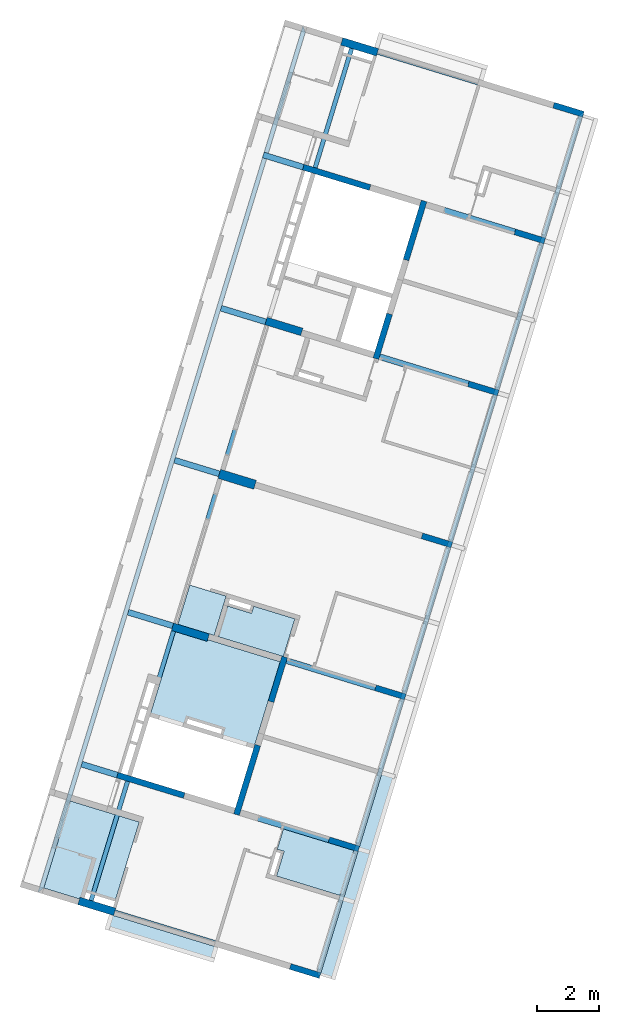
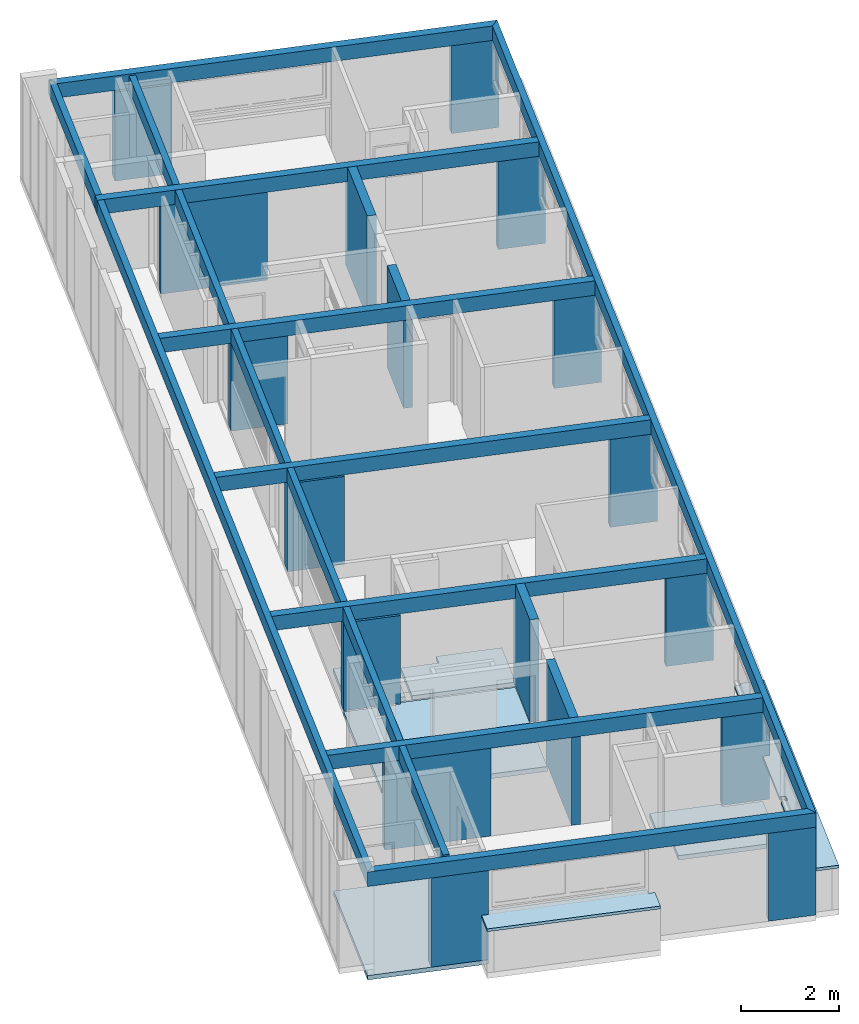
# One storey, part 5 of 18: 18 columns, 10 beams, 7 slabs.
"""IFC2X3 building model written with IfcOpenShell, lengths in millimetres."""

from ifc_helpers import new_model, entity, si_unit, converted_unit, derived_unit, money_unit, direction, frame, origin_with_axes, place, context, subcontext, project, spatial, faceted_brep, material, type_object, element, save


model = new_model("IFC2X3")

# Units and contexts
model_context = context("Model", 3, precision=0.01, world=origin_with_axes(), true_north=direction((0.0, 1.0)))
body_context = subcontext(model_context, "Body", "Model", "MODEL_VIEW")
ifc_project = project(units=[si_unit("LENGTHUNIT", "METRE", prefix="MILLI"), si_unit("AREAUNIT", "SQUARE_METRE"), si_unit("VOLUMEUNIT", "CUBIC_METRE"), converted_unit("PLANEANGLEUNIT", "DEGREE", entity("IfcPlaneAngleMeasure", 0.0174532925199), si_unit("PLANEANGLEUNIT", "RADIAN"), dimensions=[0, 0, 0, 0, 0, 0, 0]), money_unit("USD"), converted_unit("TIMEUNIT", "Year", entity("IfcTimeMeasure", 31556926.0), si_unit("TIMEUNIT", "SECOND"), dimensions=[0, 0, 1, 0, 0, 0, 0]), si_unit("MASSUNIT", "GRAM", prefix="KILO"), si_unit("THERMODYNAMICTEMPERATUREUNIT", "DEGREE_CELSIUS"), si_unit("LUMINOUSINTENSITYUNIT", "LUMEN"), si_unit("ENERGYUNIT", "JOULE", prefix="MEGA"), derived_unit("THERMALCONDUCTANCEUNIT", [(si_unit("POWERUNIT", "WATT"), 1), (si_unit("LENGTHUNIT", "METRE"), -1), (si_unit("THERMODYNAMICTEMPERATUREUNIT", "KELVIN"), -1)]), derived_unit("SPECIFICHEATCAPACITYUNIT", [(si_unit("ENERGYUNIT", "JOULE"), 1), (si_unit("MASSUNIT", "GRAM", prefix="KILO"), -1), (si_unit("THERMODYNAMICTEMPERATUREUNIT", "KELVIN"), -1)]), derived_unit("MASSDENSITYUNIT", [(si_unit("MASSUNIT", "GRAM", prefix="KILO"), 1), (si_unit("VOLUMEUNIT", "CUBIC_METRE"), -1)])], contexts=[model_context])

# Site, building, storey
site_placement = place(None, frame((0.0, 0.0, 0.0), z_axis=(0.0, 0.0, 1.0), x_axis=(0.956304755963, -0.292371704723, 0.0)))
site = spatial("IfcSite", under=ifc_project, at=site_placement, Name="Site", CompositionType="ELEMENT")
building_placement = place(site_placement, origin_with_axes())
building = spatial("IfcBuilding", under=site, at=building_placement, Name="Building", CompositionType="ELEMENT")
storey_placement = place(building_placement, origin_with_axes())
storey = spatial("IfcBuildingStorey", under=building, at=storey_placement, Name="Pavimento tipo", CompositionType="ELEMENT", Elevation=0.0)

# Columns
ifc_material_1 = material(Name="Concreto - Estrutural")
column_type_1 = type_object("IfcColumnType", Name="Concreto - Estrutural 190 x 1980", PredefinedType="NOTDEFINED")
column_1_placement = place(storey_placement, frame((5366.7113974, 23849.9900343, 0.0), z_axis=(0.0, 0.0, 1.0), x_axis=(1.0, 0.0, 0.0)))
element("IfcColumn", 1, at=column_1_placement, inside=storey, type_object=column_type_1, material=ifc_material_1, Name="Pilar 08", context=body_context, shape_type="Brep", body=[
    faceted_brep([(-95.0, 990.0, 0.0), (-95.0000000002, 989.999135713, 2200.0), (94.9999999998, 989.999094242, 2200.0), (95.0, 990.0, 0.0), (-95.0, 799.999135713, 2560.0), (-95.0, 799.999135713, 2200.0), (-95.0, -990.0, 0.0), (-95.0, -990.0, 2560.0), (95.0, 799.999094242, 2200.0), (95.0, 799.999094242, 2560.0), (95.0, -990.0, 2560.0), (95.0, -990.0, 0.0)], [[[0, 1, 2, 3]], [[4, 5, 1, 0, 6, 7]], [[5, 8, 2, 1]], [[2, 8, 9, 10, 11, 3]], [[3, 11, 6, 0]], [[5, 4, 9, 8]], [[10, 7, 6, 11]], [[10, 9, 4, 7]]]),
])
column_type_2 = type_object("IfcColumnType", Name="Concreto - Estrutural 1200 x 250", PredefinedType="NOTDEFINED")
column_2_placement = place(storey_placement, frame((2241.71098285, 19674.9900343, 0.0), z_axis=(0.0, 0.0, 1.0), x_axis=(1.0, 0.0, 0.0)))
element("IfcColumn", 2, at=column_2_placement, inside=storey, type_object=column_type_2, material=ifc_material_1, Name="Pilar 14", context=body_context, shape_type="Brep", body=[
    faceted_brep([(-600.0, -125.0, 2200.0), (-600.0, -125.0, 0.0), (600.0, -125.0, 0.0), (600.0, -125.0, 2200.0), (-600.0, 125.0, 2200.0), (-600.0, 125.0, 0.0), (600.0, 125.0, 0.0), (600.0, 125.0, 2200.0)], [[[0, 1, 2, 3]], [[4, 5, 1, 0]], [[2, 1, 5, 6]], [[3, 2, 6, 7]], [[4, 0, 3, 7]], [[7, 6, 5, 4]]]),
])
column_3_placement = place(storey_placement, frame((1941.71171539, 28964.9900343, -30.0), z_axis=(0.0, 0.0, 1.0), x_axis=(1.0, 0.0, 0.0)))
element("IfcColumn", 3, at=column_3_placement, inside=storey, type_object=column_type_2, material=ifc_material_1, Name="Pilar 12", context=body_context, shape_type="Brep", body=[
    faceted_brep([(-600.0, -125.0, 2230.0), (-600.0, -125.0, 0.0), (600.0, -125.0, 0.0), (600.0, -125.0, 2230.0), (-600.0, 125.0, 2230.0), (-600.0, 125.0, 0.0), (600.0, 125.0, 0.0), (600.0, 125.0, 2230.0)], [[[0, 1, 2, 3]], [[4, 5, 1, 0]], [[2, 1, 5, 6]], [[3, 2, 6, 7]], [[4, 0, 3, 7]], [[7, 6, 5, 4]]]),
])
column_4_placement = place(storey_placement, frame((2241.71098285, 9414.99003431, 0.0), z_axis=(0.0, 0.0, 1.0), x_axis=(-1.0, 0.0, 0.0)))
element("IfcColumn", 4, at=column_4_placement, inside=storey, type_object=column_type_2, material=ifc_material_1, Name="Pilar 16", context=body_context, shape_type="Brep", body=[
    faceted_brep([(600.0, 125.0, 2200.0), (600.0, 125.0, 0.0), (-600.0, 125.0, 0.0), (-600.0, 125.0, 2200.0), (600.0, -125.0, 2200.0), (600.0, -125.0, 0.0), (-600.0, -125.0, 0.0), (-600.0, -125.0, 2200.0)], [[[0, 1, 2, 3]], [[4, 5, 1, 0]], [[2, 1, 5, 6]], [[3, 2, 6, 7]], [[4, 0, 3, 7]], [[7, 6, 5, 4]]]),
])
column_5_placement = place(storey_placement, frame((1941.71171539, 124.990034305, -30.0), z_axis=(0.0, 0.0, 1.0), x_axis=(-1.0, 0.0, 0.0)))
element("IfcColumn", 5, at=column_5_placement, inside=storey, type_object=column_type_2, material=ifc_material_1, Name="Pilar 18", context=body_context, shape_type="Brep", body=[
    faceted_brep([(600.0, 125.0, 2230.0), (600.0, 125.0, 0.0), (-600.0, 125.0, 0.0), (-600.0, 125.0, 2230.0), (600.0, -125.0, 2230.0), (600.0, -125.0, 0.0), (-600.0, -125.0, 0.0), (-600.0, -125.0, 2230.0)], [[[0, 1, 2, 3]], [[4, 5, 1, 0]], [[2, 1, 5, 6]], [[3, 2, 6, 7]], [[4, 0, 3, 7]], [[7, 6, 5, 4]]]),
])
column_type_3 = type_object("IfcColumnType", Name="Concreto - Estrutural 190 x 1500", PredefinedType="NOTDEFINED")
column_6_placement = place(storey_placement, frame((5366.71344835, 20299.9900343, 0.0), z_axis=(0.0, 0.0, 1.0), x_axis=(1.0, 0.0, 0.0)))
element("IfcColumn", 6, at=column_6_placement, inside=storey, type_object=column_type_3, material=ifc_material_1, Name="Pilar 09", context=body_context, shape_type="Brep", body=[
    faceted_brep([(-95.0, 750.0, 2560.0), (-95.0, -560.0, 2560.0), (95.0, -560.0, 2560.0), (95.0, 750.0, 2560.0), (-95.0, -750.0, 2200.0), (-95.0, -560.0, 2200.0), (-95.0, 750.0, 0.0), (-95.0, -750.0, 0.0), (95.0, -560.0, 2200.0), (95.0, -750.0, 2200.0), (95.0, -750.0, 0.0), (95.0, 750.0, 0.0)], [[[0, 1, 2, 3]], [[4, 5, 1, 0, 6, 7]], [[5, 8, 2, 1]], [[2, 8, 9, 10, 11, 3]], [[0, 3, 11, 6]], [[4, 9, 8, 5]], [[11, 10, 7, 6]], [[10, 9, 4, 7]]]),
])
column_7_placement = place(storey_placement, frame((5366.71097365, 8789.99003431, 0.0), z_axis=(0.0, 0.0, 1.0), x_axis=(-1.0, 0.0, 0.0)))
element("IfcColumn", 7, at=column_7_placement, inside=storey, type_object=column_type_3, material=ifc_material_1, Name="Pilar 10", context=body_context, shape_type="Brep", body=[
    faceted_brep([(95.0, -750.0, 0.0), (95.0, -750.000043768, 2200.0), (-95.0, -750.000041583, 2200.0), (-95.0, -750.0, 0.0), (95.0, -560.000043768, 2560.0), (95.0, -560.000043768, 2200.0), (95.0, 750.0, 0.0), (95.0, 750.0, 2560.0), (-95.0, -560.000041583, 2200.0), (-95.0, -560.000041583, 2560.0), (-95.0, 750.0, 2560.0), (-95.0, 750.0, 0.0)], [[[0, 1, 2, 3]], [[4, 5, 1, 0, 6, 7]], [[5, 8, 2, 1]], [[2, 8, 9, 10, 11, 3]], [[3, 11, 6, 0]], [[5, 4, 9, 8]], [[10, 7, 6, 11]], [[10, 9, 4, 7]]]),
])
column_type_4 = type_object("IfcColumnType", Name="Concreto - Estrutural 2240 x 190", PredefinedType="NOTDEFINED")
column_8_placement = place(storey_placement, frame((2461.71344835, 24744.9900343, 0.0), z_axis=(0.0, 0.0, 1.0), x_axis=(1.0, 0.0, 0.0)))
element("IfcColumn", 8, at=column_8_placement, inside=storey, type_object=column_type_4, material=ifc_material_1, Name="Pilar 13", context=body_context, shape_type="Brep", body=[
    faceted_brep([(-1120.0, -95.0, 2200.0), (-1120.0, -95.0, 0.0), (1120.0, -95.0, 0.0), (1120.0, -95.0, 2200.0), (-1120.0, 95.0, 2200.0), (-1120.0, 95.0, 0.0), (1120.0, 95.0, 0.0), (1120.0, 95.0, 2200.0)], [[[0, 1, 2, 3]], [[4, 5, 1, 0]], [[2, 1, 5, 6]], [[3, 2, 6, 7]], [[4, 0, 3, 7]], [[7, 6, 5, 4]]]),
])

# Space
space_1_placement = place(storey_placement, frame((1481.71507604, 4250.00139822, 0.0), z_axis=(0.0, 0.0, 1.0), x_axis=(3.39571890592e-07, -1.0, 0.0)))
space_1 = spatial("IfcSpace", under=storey, at=space_1_placement, Name="01", CompositionType="ELEMENT", InteriorOrExteriorSpace="INTERNAL")

# Columns
column_9_placement = place(space_1_placement, frame((-94.9883033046, 979.99593647, 0.0), z_axis=(0.0, 0.0, 1.0), x_axis=(-3.39571890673e-07, -1.0, 0.0)))
element("IfcColumn", 9, at=column_9_placement, inside=space_1, type_object=column_type_4, material=ifc_material_1, Name="Pilar 17", context=body_context, shape_type="Brep", body=[
    faceted_brep([(1120.0, 95.0, 2200.0), (1120.0, 95.0, 0.0), (-1120.0, 95.0, 0.0), (-1120.0, 95.0, 2200.0), (1120.0, -95.0, 2200.0), (1120.0, -95.0, 0.0), (-1120.0, -95.0, 0.0), (-1120.0, -95.0, 2200.0)], [[[0, 1, 2, 3]], [[4, 5, 1, 0]], [[2, 1, 5, 6]], [[3, 2, 6, 7]], [[4, 0, 3, 7]], [[7, 6, 5, 4]]]),
])
column_type_5 = type_object("IfcColumnType", Name="Concreto - Estrutural 1000 x 190", PredefinedType="NOTDEFINED")
for number, where, z_axis, x_axis, name in (
    (10, (-94.9861028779, 7459.99841133, 0.0), (0.0, 0.0, 1.0), (-3.39571890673e-07, -1.0, 0.0), "Pilar 06"),
    (11, (4155.01389712, 7459.99696815, 0.0), (0.0, 0.0, 1.0), (-3.39571890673e-07, -1.0, 0.0), "Pilar 07"),
):
    element("IfcColumn", number, at=place(space_1_placement, frame(where, z_axis=z_axis, x_axis=x_axis)), inside=space_1, type_object=column_type_5, material=ifc_material_1, Name=name, context=body_context, shape_type="Brep", body=[
        faceted_brep([(500.0, 95.0, 2200.0), (500.0, 95.0, 0.0), (-500.0, 95.0, 0.0), (-500.0, 95.0, 2200.0), (500.0, -95.0, 2200.0), (500.0, -95.0, 0.0), (-500.0, -95.0, 0.0), (-500.0, -95.0, 2200.0)], [[[0, 1, 2, 3]], [[4, 5, 1, 0]], [[2, 1, 5, 6]], [[3, 2, 6, 7]], [[4, 0, 3, 7]], [[7, 6, 5, 4]]]),
    ])

# Space
space_2_placement = place(storey_placement, frame((1481.71158317, 24839.9981298, 0.0), z_axis=(0.0, 0.0, 1.0), x_axis=(1.0, -1.55460451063e-08, 0.0)))
space_2 = spatial("IfcSpace", under=storey, at=space_2_placement, Name="04", CompositionType="ELEMENT", InteriorOrExteriorSpace="INTERNAL")

# Columns
for number, where, z_axis, x_axis, name in (
    (12, (7460.00180735, 4154.9920205, 0.0), (0.0, 0.0, 1.0), (1.0, 1.55460451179e-08, 0.0), "Pilar 01"),
    (13, (7459.99933256, -95.0079795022, 0.0), (0.0, 0.0, 1.0), (1.0, 1.55460451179e-08, 0.0), "Pilar 02"),
):
    element("IfcColumn", number, at=place(space_2_placement, frame(where, z_axis=z_axis, x_axis=x_axis)), inside=space_2, type_object=column_type_5, material=ifc_material_1, Name=name, context=body_context, shape_type="Brep", body=[
        faceted_brep([(-500.0, -95.0, 2200.0), (-500.0, -95.0, 0.0), (500.0, -95.0, 0.0), (500.0, -95.0, 2200.0), (-500.0, 95.0, 2200.0), (-500.0, 95.0, 0.0), (500.0, 95.0, 0.0), (500.0, 95.0, 2200.0)], [[[0, 1, 2, 3]], [[4, 5, 1, 0]], [[2, 1, 5, 6]], [[3, 2, 6, 7]], [[4, 0, 3, 7]], [[7, 6, 5, 4]]]),
    ])

# Space
space_3_placement = place(storey_placement, frame((2841.71096673, 14639.9999947, 0.0), z_axis=(0.0, 0.0, 1.0), x_axis=(1.0, 1.43937078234e-07, 0.0)))
space_3 = spatial("IfcSpace", under=storey, at=space_3_placement, Name="03", CompositionType="ELEMENT", InteriorOrExteriorSpace="INTERNAL")

# Column
column_10_placement = place(space_3_placement, frame((6100.00073615, 5004.99923509, 0.0), z_axis=(0.0, 0.0, 1.0), x_axis=(1.0, -1.43937078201e-07, 0.0)))
element("IfcColumn", 14, at=column_10_placement, inside=space_3, type_object=column_type_5, material=ifc_material_1, Name="Pilar 03", context=body_context, shape_type="Brep", body=[
    faceted_brep([(-500.0, -95.0, 2200.0), (-500.0, -95.0, 0.0), (500.0, -95.0, 0.0), (500.0, -95.0, 2200.0), (-500.0, 95.0, 2200.0), (-500.0, 95.0, 0.0), (500.0, 95.0, 0.0), (500.0, 95.0, 2200.0)], [[[0, 1, 2, 3]], [[4, 5, 1, 0]], [[2, 1, 5, 6]], [[3, 2, 6, 7]], [[4, 0, 3, 7]], [[7, 6, 5, 4]]]),
])

# Space
space_4_placement = place(storey_placement, frame((2841.71099896, 14449.9999947, 0.0), z_axis=(0.0, 0.0, 1.0), x_axis=(6.32291681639e-07, -1.0, 0.0)))
space_4 = spatial("IfcSpace", under=storey, at=space_4_placement, Name="02", CompositionType="ELEMENT", InteriorOrExteriorSpace="INTERNAL")

# Columns
column_11_placement = place(space_4_placement, frame((5005.01381738, 6099.99928475, 0.0), z_axis=(0.0, 0.0, 1.0), x_axis=(-6.32291681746e-07, -1.0, 0.0)))
element("IfcColumn", 15, at=column_11_placement, inside=space_4, type_object=column_type_5, material=ifc_material_1, Name="Pilar 05", context=body_context, shape_type="Brep", body=[
    faceted_brep([(500.0, 95.0, 2200.0), (500.0, 95.0, 0.0), (-500.0, 95.0, 0.0), (-500.0, 95.0, 2200.0), (500.0, -95.0, 2200.0), (500.0, -95.0, 0.0), (-500.0, -95.0, 0.0), (-500.0, -95.0, 2200.0)], [[[0, 1, 2, 3]], [[4, 5, 1, 0]], [[2, 1, 5, 6]], [[3, 2, 6, 7]], [[4, 0, 3, 7]], [[7, 6, 5, 4]]]),
])
column_12_placement = place(space_4_placement, frame((-94.9861826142, 6100.00250944, 0.0), z_axis=(0.0, 0.0, 1.0), x_axis=(6.32291681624e-07, 1.0, 0.0)))
element("IfcColumn", 16, at=column_12_placement, inside=space_4, type_object=column_type_5, material=ifc_material_1, Name="Pilar 04", context=body_context, shape_type="Brep", body=[
    faceted_brep([(-500.0, -95.0, 2200.0), (-500.0, -95.0, 0.0), (500.0, -95.0, 0.0), (500.0, -95.0, 2200.0), (-500.0, 95.0, 2200.0), (-500.0, 95.0, 0.0), (500.0, 95.0, 0.0), (500.0, 95.0, 2200.0)], [[[0, 1, 2, 3]], [[4, 5, 1, 0]], [[2, 1, 5, 6]], [[3, 2, 6, 7]], [[4, 0, 3, 7]], [[7, 6, 5, 4]]]),
])
column_type_6 = type_object("IfcColumnType", Name="Concreto - Estrutural 1200 x 300", PredefinedType="NOTDEFINED")
column_13_placement = place(storey_placement, frame((2241.71098285, 14544.9999947, 0.0), z_axis=(0.0, 0.0, 1.0), x_axis=(1.0, 0.0, 0.0)))
element("IfcColumn", 17, at=column_13_placement, inside=storey, type_object=column_type_6, material=ifc_material_1, Name="Pilar 15", context=body_context, shape_type="Brep", body=[
    faceted_brep([(-600.0, -150.0, 2200.0), (-600.0, -150.0, 0.0), (600.0, -150.0, 0.0), (600.0, -150.0, 2200.0), (-600.0, 150.0, 2200.0), (-600.0, 150.0, 0.0), (600.0, 150.0, 0.0), (600.0, 150.0, 2200.0)], [[[0, 1, 2, 3]], [[4, 5, 1, 0]], [[2, 1, 5, 6]], [[3, 2, 6, 7]], [[4, 0, 3, 7]], [[7, 6, 5, 4]]]),
])
column_type_7 = type_object("IfcColumnType", Name="Concreto - Estrutural 190 x 2330", PredefinedType="NOTDEFINED")
column_14_placement = place(storey_placement, frame((5366.71344835, 5414.99003431, 0.0), z_axis=(0.0, 0.0, 1.0), x_axis=(-1.0, 0.0, 0.0)))
element("IfcColumn", 18, at=column_14_placement, inside=storey, type_object=column_type_7, material=ifc_material_1, Name="Pilar 11", context=body_context, shape_type="Brep", body=[
    faceted_brep([(95.0, -1165.0, 2560.0), (95.0, 974.990025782, 2560.0), (-95.0, 974.990027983, 2560.0), (-95.0, -1165.0, 2560.0), (94.9999999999, 1164.99002578, 2200.0), (95.0, 974.990025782, 2200.0), (95.0, -1165.0, 0.0), (95.0, 1165.0, 0.0), (-95.0, 974.990027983, 2200.0), (-95.0000000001, 1164.99002798, 2200.0), (-95.0, 1165.0, 0.0), (-95.0, -1165.0, 0.0)], [[[0, 1, 2, 3]], [[4, 5, 1, 0, 6, 7]], [[5, 8, 2, 1]], [[2, 8, 9, 10, 11, 3]], [[0, 3, 11, 6]], [[4, 9, 8, 5]], [[11, 10, 7, 6]], [[10, 9, 4, 7]]]),
])

# Beams
ifc_material_2 = material(Name="Concreto Armado - Estrutural")
beam_type_1 = type_object("IfcBeamType", Name="Concreto Armado - Estrutural 190 x 360", PredefinedType="NOTDEFINED")
beam_1_placement = place(space_1_placement, frame((0.00414098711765, 7959.99583821, 2560.0), z_axis=(0.0, 0.0, 1.0), x_axis=(-1.0, 3.5115407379e-07, 0.0)))
element("IfcBeam", 19, at=beam_1_placement, inside=space_1, type_object=beam_type_1, material=ifc_material_2, Name="V09", context=body_context, shape_type="Brep", body=[
    faceted_brep([(190.0, 139.997191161, -360.0), (190.0, 9299.99746811, -360.0), (190.0, 9299.99746811, 0.0), (190.0, 139.997191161, 0.0), (0.0, 139.997186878, -360.0), (0.0, 9299.99746591, -360.0), (0.0, 9299.99746591, 0.0), (0.0, 139.997186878, 0.0)], [[[0, 1, 2, 3]], [[4, 5, 1, 0]], [[5, 6, 2, 1]], [[3, 2, 6, 7]], [[7, 4, 0, 3]], [[7, 6, 5, 4]]]),
])
beam_2_placement = place(space_1_placement, frame((4250.01086135, -1480.00307088, 2560.0), z_axis=(0.0, 0.0, 1.0), x_axis=(1.0, -3.37860045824e-07, 0.0)))
element("IfcBeam", 20, at=beam_2_placement, inside=space_1, type_object=beam_type_1, material=ifc_material_2, Name="V10", context=body_context, shape_type="Brep", body=[
    faceted_brep([(-190.0, 140.000000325, -360.0), (-190.0, 9300.00032385, -360.0), (0.0, 9440.00032561, -360.0), (0.0, 0.0, -360.0), (-190.0, 140.000000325, 0.0), (-190.0, 9300.00032385, 0.0), (0.0, 9440.00032561, 0.0), (0.0, 0.0, 0.0)], [[[0, 1, 2, 3]], [[4, 5, 1, 0]], [[2, 1, 5, 6]], [[3, 2, 6, 7]], [[4, 0, 3, 7]], [[7, 6, 5, 4]]]),
])
beam_3_placement = place(space_2_placement, frame((-1479.9982009, 4249.99311928, 2560.0), z_axis=(0.0, 0.0, 1.0), x_axis=(1.55460451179e-08, -1.0, 0.0)))
element("IfcBeam", 21, at=beam_3_placement, inside=space_2, type_object=beam_type_1, material=ifc_material_2, Name="V04", context=body_context, shape_type="Brep", body=[
    faceted_brep([(0.0, 0.0, -360.0), (0.0, 9440.00000677, -360.0), (190.0, 9300.00000885, -360.0), (190.0, 140.0, -360.0), (0.0, 0.0, 0.0), (0.0, 9440.00000677, 0.0), (190.0, 9300.00000885, 0.0), (190.0, 140.0, 0.0)], [[[0, 1, 2, 3]], [[4, 5, 1, 0]], [[2, 1, 5, 6]], [[3, 2, 6, 7]], [[4, 0, 3, 7]], [[7, 6, 5, 4]]]),
])
beam_4_placement = place(space_2_placement, frame((-1482.10424752, -0.00783206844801, 2560.0), z_axis=(0.0, 0.0, 1.0), x_axis=(-2.02722688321e-07, -1.0, 0.0)))
element("IfcBeam", 22, at=beam_4_placement, inside=space_2, type_object=beam_type_1, material=ifc_material_2, Name="V05", context=body_context, shape_type="Brep", body=[
    faceted_brep([(190.0, 0.0, 0.0), (190.0, 9302.10620961, 0.0), (0.0, 9302.10616605, 0.0), (0.0, 0.0, 0.0), (190.0, 0.0, -360.0), (190.0, 9302.10620961, -360.0), (0.0, 9302.10616605, -360.0), (0.0, 0.0, -360.0)], [[[0, 1, 2, 3]], [[4, 5, 1, 0]], [[5, 6, 2, 1]], [[3, 2, 6, 7]], [[4, 0, 3, 7]], [[7, 6, 5, 4]]]),
])
beam_5_placement = place(space_3_placement, frame((6600.00072247, 4909.98908961, 2560.0), z_axis=(0.0, 0.0, 1.0), x_axis=(1.43937078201e-07, 1.0, 0.0)))
element("IfcBeam", 23, at=beam_5_placement, inside=space_3, type_object=beam_type_1, material=ifc_material_2, Name="V06", context=body_context, shape_type="Brep", body=[
    faceted_brep([(190.0, 139.99742488, -360.0), (190.0, 9299.99753413, -360.0), (190.0, 9299.99753413, 0.0), (190.0, 139.99742488, 0.0), (0.0, 139.997422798, -360.0), (0.0, 9299.99753413, -360.0), (0.0, 9299.99753413, 0.0), (0.0, 139.997422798, 0.0)], [[[0, 1, 2, 3]], [[4, 5, 1, 0]], [[5, 6, 2, 1]], [[3, 2, 6, 7]], [[7, 4, 0, 3]], [[7, 6, 5, 4]]]),
])

# Space
space_5_placement = place(storey_placement, frame((-458.28928681, 3300.00204517, 0.0), z_axis=(0.0, 0.0, 1.0), x_axis=(1.0, 0.0, 0.0)))
space_5 = spatial("IfcSpace", under=storey, at=space_5_placement, Name="05", CompositionType="ELEMENT", InteriorOrExteriorSpace="INTERNAL")

# Beams
beam_6_placement = place(space_5_placement, frame((9900.00273516, 6049.98798495, 2560.0), z_axis=(0.0, 0.0, 1.0), x_axis=(1.14994548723e-08, 1.0, 0.0)))
element("IfcBeam", 24, at=beam_6_placement, inside=space_5, type_object=beam_type_1, material=ifc_material_2, Name="V08", context=body_context, shape_type="Brep", body=[
    faceted_brep([(190.0, 139.999781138, -360.0), (190.0, 9300.00000218, -360.0), (190.0, 9300.00000218, 0.0), (190.0, 139.999781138, 0.0), (0.0, 139.999776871, -360.0), (0.0, 9300.0, -360.0), (0.0, 9300.0, 0.0), (0.0, 139.999776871, 0.0)], [[[0, 1, 2, 3]], [[4, 5, 1, 0]], [[5, 6, 2, 1]], [[3, 2, 6, 7]], [[7, 4, 0, 3]], [[7, 6, 5, 4]]]),
])
beam_7_placement = place(space_5_placement, frame((9900.00272667, 11149.9980945, 2560.0), z_axis=(0.0, 0.0, 1.0), x_axis=(-1.40426879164e-09, 1.0, 0.0)))
element("IfcBeam", 25, at=beam_7_placement, inside=space_5, type_object=beam_type_1, material=ifc_material_2, Name="V07", context=body_context, shape_type="Brep", body=[
    faceted_brep([(190.0, 139.999826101, -360.0), (190.0, 9299.99999125, -360.0), (190.0, 9299.99999125, 0.0), (190.0, 139.999826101, 0.0), (0.0, 139.999824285, -360.0), (0.0, 9299.99999152, -360.0), (0.0, 9299.99999152, 0.0), (0.0, 139.999824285, 0.0)], [[[0, 1, 2, 3]], [[4, 5, 1, 0]], [[5, 6, 2, 1]], [[3, 2, 6, 7]], [[7, 4, 0, 3]], [[7, 6, 5, 4]]]),
])
beam_type_2 = type_object("IfcBeamType", Name="Concreto Armado - Estrutural 140 x 360", PredefinedType="NOTDEFINED")
beam_8_placement = place(space_1_placement, frame((-24839.9871709, 7960.00681404, 2560.0), z_axis=(0.0, 0.0, 1.0), x_axis=(-3.28611506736e-07, -1.0, 0.0)))
element("IfcBeam", 26, at=beam_8_placement, inside=space_1, type_object=beam_type_2, material=ifc_material_2, Name="V03", context=body_context, shape_type="Brep", body=[
    faceted_brep([(0.0, 0.0, -360.0), (0.0, 29090.0012216, -360.0), (140.0, 28900.0012203, -360.0), (140.0, 189.999998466, -360.0), (0.0, 0.0, 0.0), (0.0, 29090.0012216, 0.0), (140.0, 28900.0012203, 0.0), (140.0, 189.999998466, 0.0)], [[[0, 1, 2, 3]], [[4, 5, 1, 0]], [[2, 1, 5, 6]], [[3, 2, 6, 7]], [[4, 0, 3, 7]], [[7, 6, 5, 4]]]),
])
beam_9_placement = place(space_1_placement, frame((-24839.9903764, -1479.99319273, 2560.0), z_axis=(0.0, 0.0, 1.0), x_axis=(-3.39571890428e-07, -1.0, 0.0)))
element("IfcBeam", 27, at=beam_9_placement, inside=space_1, type_object=beam_type_2, material=ifc_material_2, Name="V01", context=body_context, shape_type="Brep", body=[
    faceted_brep([(-140.0, 28900.0012375, -360.0), (-140.0, 4440.00098234, -360.0), (-140.0, 4440.00098234, 0.0), (-140.0, 28900.0012375, 0.0), (0.0, 29090.0012378, -360.0), (0.0, 4440.00095178, -360.0), (0.0, 4440.00095178, 0.0), (0.0, 29090.0012378, 0.0)], [[[0, 1, 2, 3]], [[4, 5, 1, 0]], [[5, 6, 2, 1]], [[3, 2, 6, 7]], [[7, 4, 0, 3]], [[7, 6, 5, 4]]]),
    faceted_brep([(0.0, 0.0, 0.0), (0.0, 4250.00095178, 0.0), (-140.0, 4250.00098234, 0.0), (-140.0, 190.0, 0.0), (0.0, 0.0, -360.0), (0.0, 4250.00095178, -360.0), (-140.0, 4250.00098234, -360.0), (-140.0, 190.0, -360.0)], [[[0, 1, 2, 3]], [[4, 5, 1, 0]], [[5, 6, 2, 1]], [[3, 2, 6, 7]], [[0, 3, 7, 4]], [[7, 6, 5, 4]]]),
])
beam_10_placement = place(space_1_placement, frame((-24589.9885818, 160.006722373, 2560.0), z_axis=(0.0, 0.0, 1.0), x_axis=(-3.39571890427e-07, -1.0, 0.0)))
element("IfcBeam", 28, at=beam_10_placement, inside=space_1, type_object=beam_type_2, material=ifc_material_2, Name="V02", context=body_context, shape_type="Brep", body=[
    faceted_brep([(-140.0, 14199.9899054, -360.0), (-140.0, 9290.0, -360.0), (-140.0, 9290.0, 0.0), (-140.0, 14199.9899054, 0.0), (0.0, 14199.9899056, -360.0), (0.0, 9290.0, -360.0), (0.0, 9290.0, 0.0), (0.0, 14199.9899056, 0.0)], [[[0, 1, 2, 3]], [[4, 5, 1, 0]], [[5, 6, 2, 1]], [[3, 2, 6, 7]], [[7, 4, 0, 3]], [[7, 6, 5, 4]]]),
    faceted_brep([(0.0, 4190.00007198, 0.0), (0.0, 9100.0, 0.0), (-140.0, 9100.0, 0.0), (-140.0, 4190.00010253, 0.0), (0.0, 4190.00007198, -360.0), (0.0, 9100.0, -360.0), (-140.0, 9100.0, -360.0), (-140.0, 4190.00010253, -360.0)], [[[0, 1, 2, 3]], [[4, 5, 1, 0]], [[5, 6, 2, 1]], [[3, 2, 6, 7]], [[4, 0, 3, 7]], [[7, 6, 5, 4]]]),
    faceted_brep([(-140.0, 19299.9999161, -360.0), (-140.0, 14389.9899054, -360.0), (-140.0, 14389.9899054, 0.0), (-140.0, 19299.9999161, 0.0), (0.0, 19299.9999145, -360.0), (0.0, 14389.9899056, -360.0), (0.0, 14389.9899056, 0.0), (0.0, 19299.9999145, 0.0)], [[[0, 1, 2, 3]], [[4, 5, 1, 0]], [[5, 6, 2, 1]], [[3, 2, 6, 7]], [[7, 4, 0, 3]], [[7, 6, 5, 4]]]),
    faceted_brep([(-140.0, 24399.9899854, -360.0), (-140.0, 19489.9999161, -360.0), (-140.0, 19489.9999161, 0.0), (-140.0, 24399.9899854, 0.0), (0.0, 24399.9899837, -360.0), (0.0, 19489.9999145, -360.0), (0.0, 19489.9999145, 0.0), (0.0, 24399.9899837, 0.0)], [[[0, 1, 2, 3]], [[4, 5, 1, 0]], [[5, 6, 2, 1]], [[3, 2, 6, 7]], [[7, 4, 0, 3]], [[7, 6, 5, 4]]]),
    faceted_brep([(-140.0, 28590.0, -360.0), (-140.0, 24589.9899854, -360.0), (-140.0, 24589.9899854, 0.0), (-140.0, 28590.0, 0.0), (0.0, 28590.0, -360.0), (0.0, 24589.9899837, -360.0), (0.0, 24589.9899837, 0.0), (0.0, 28590.0, 0.0)], [[[0, 1, 2, 3]], [[4, 5, 1, 0]], [[5, 6, 2, 1]], [[3, 2, 6, 7]], [[3, 7, 4, 0]], [[7, 6, 5, 4]]]),
    faceted_brep([(0.0, 0.0, 0.0), (0.0, 4000.00007198, 0.0), (-140.0, 4000.00010253, 0.0), (-140.0, 0.0, 0.0), (0.0, 0.0, -360.0), (0.0, 4000.00007198, -360.0), (-140.0, 4000.00010253, -360.0), (-140.0, 0.0, -360.0)], [[[0, 1, 2, 3]], [[4, 5, 1, 0]], [[5, 6, 2, 1]], [[3, 2, 6, 7]], [[0, 3, 7, 4]], [[7, 6, 5, 4]]]),
])

# Slabs
slab_type_1 = type_object("IfcSlabType", Name="Concreto - Estrutural 110", PredefinedType="FLOOR")
slab_1_placement = place(storey_placement, frame((3140.00214067, 9539.99996852, -30.0), z_axis=(0.0, 0.0, 1.0), x_axis=(1.0, 0.0, 0.0)))
element("IfcSlab", 29, at=slab_1_placement, inside=storey, type_object=slab_type_1, material=ifc_material_1, Name="Laje 06", PredefinedType="FLOOR", context=body_context, shape_type="Brep", body=[
    faceted_brep([(0.0, 0.0, 0.0), (0.0, 0.0, -110.0), (2181.70858093, 1.33635875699e-05, -110.0), (2181.70858093, 1.33635875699e-05, 0.0), (0.0, 1027.17110758, 0.0), (0.0, 1027.17110758, -110.0), (799.999974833, 1027.17110758, -110.0), (799.999888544, 1267.17144554, -110.0), (2181.70762269, 1267.17194231, -110.0), (2181.70762269, 1267.17194231, 0.0), (799.999888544, 1267.17144554, 0.0), (799.999974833, 1027.17110758, 0.0)], [[[0, 1, 2, 3]], [[4, 5, 1, 0]], [[2, 1, 5, 6, 7, 8]], [[3, 2, 8, 9]], [[4, 0, 3, 9, 10, 11]], [[11, 6, 5, 4]], [[10, 7, 6, 11]], [[9, 8, 7, 10]]]),
])
slab_2_placement = place(storey_placement, frame((1.69329190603, 3110.00188241, -30.0), z_axis=(0.0, 0.0, 1.0), x_axis=(1.0, 0.0, 0.0)))
element("IfcSlab", 30, at=slab_2_placement, inside=storey, type_object=slab_type_1, material=ifc_material_1, Name="Laje 09", PredefinedType="FLOOR", context=body_context, shape_type="Brep", body=[
    faceted_brep([(0.0, -3110.01114238, 0.0), (0.0, 0.0, 0.0), (0.0, 0.0, -110.0), (0.0, -3110.01114238, -110.0), (2450.01790902, -2660.00177141, 0.0), (2450.01790902, 0.000556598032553, 0.0), (2540.01839698, -3110.02370143, 0.0), (2540.01839698, -2860.01183734, 0.0), (2447.91545087, -2860.00187359, 0.0), (1480.01803712, -2860.00187359, 0.0), (1480.01803712, -2660.00177141, 0.0), (2450.01790902, 0.000556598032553, -110.0), (2540.01839698, -3110.02370143, -110.0), (2450.01790902, -2660.00177141, -110.0), (1480.01803712, -2660.00177141, -110.0), (1480.01803712, -2860.00187359, -110.0), (2447.91545087, -2860.00187359, -110.0), (2540.01839698, -2860.01183734, -110.0)], [[[0, 1, 2, 3]], [[4, 5, 1, 0, 6, 7, 8, 9, 10]], [[1, 5, 11, 2]], [[12, 3, 2, 11, 13, 14, 15, 16, 17]], [[6, 0, 3, 12]], [[5, 4, 13, 11]], [[7, 6, 12, 17]], [[8, 7, 17, 16]], [[9, 8, 16, 15]], [[10, 9, 15, 14]], [[4, 10, 14, 13]]]),
])
slab_3_placement = place(storey_placement, frame((8441.71342008, 4350.00191595, -30.0), z_axis=(0.0, 0.0, 1.0), x_axis=(1.0, 0.0, 0.0)))
element("IfcSlab", 31, at=slab_3_placement, inside=storey, type_object=slab_type_1, material=ifc_material_1, Name="Laje 08", PredefinedType="FLOOR", context=body_context, shape_type="Brep", body=[
    faceted_brep([(0.0, 0.0, 0.0), (0.0, 0.0, -110.0), (-1500.00235092, 7.03442646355e-05, -110.0), (-1500.00235092, 7.03442646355e-05, 0.0), (3.51762352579e-05, -100.01188164, 0.0), (3.51762352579e-05, -100.01188164, -110.0), (860.054525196, -100.01188164, -110.0), (860.034165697, -1609.51774888, -110.0), (-1270.00144184, -1609.4890176, -110.0), (-1270.00144184, -779.999992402, -110.0), (-1500.00189368, -779.999992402, -110.0), (-1500.00189368, -779.999992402, 0.0), (-1270.00144184, -779.999992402, 0.0), (-1270.00144184, -1609.4890176, 0.0), (860.034165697, -1609.51774888, 0.0), (860.054525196, -100.01188164, 0.0)], [[[0, 1, 2, 3]], [[4, 5, 1, 0]], [[2, 1, 5, 6, 7, 8, 9, 10]], [[3, 2, 10, 11]], [[4, 0, 3, 11, 12, 13, 14, 15]], [[15, 6, 5, 4]], [[14, 7, 6, 15]], [[13, 8, 7, 14]], [[12, 9, 8, 13]], [[11, 10, 9, 12]]]),
])
slab_4_placement = place(storey_placement, frame((3000.00214067, 10857.1710761, -30.0), z_axis=(0.0, 0.0, 1.0), x_axis=(1.0, 0.0, 0.0)))
element("IfcSlab", 32, at=slab_4_placement, inside=storey, type_object=slab_type_1, material=ifc_material_1, Name="Laje 07", PredefinedType="FLOOR", context=body_context, shape_type="Brep", body=[
    faceted_brep([(0.0, 0.0, 0.0), (0.0, 0.0, -110.0), (-1218.29142687, 0.0, -110.0), (-1218.29142687, 0.0, 0.0), (0.0, -1317.17110758, 0.0), (0.0, -1317.17110758, -110.0), (-1218.29119944, -1317.17110758, -110.0), (-1218.29119944, -1317.17110758, 0.0)], [[[0, 1, 2, 3]], [[4, 5, 1, 0]], [[2, 1, 5, 6]], [[3, 2, 6, 7]], [[4, 0, 3, 7]], [[7, 6, 5, 4]]]),
])
slab_type_2 = type_object("IfcSlabType", Name="Concreto - Estrutural 70", PredefinedType="FLOOR")
slab_5_placement = place(space_1_placement, frame((4250.00174108, 919.994148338, 1100.0), z_axis=(0.0, 0.0, 1.0), x_axis=(3.39571890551e-07, 1.0, 0.0)))
element("IfcSlab", 33, at=slab_5_placement, inside=space_1, type_object=slab_type_2, material=ifc_material_1, Name="Apt 01 - Laje 12", PredefinedType="FLOOR", context=body_context, shape_type="Brep", body=[
    faceted_brep([(-7.87379228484e-05, -500.000166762, -70.0), (-7.87379228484e-05, -500.000166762, 0.0), (0.0, 0.0, 0.0), (0.0, 0.0, -70.0), (3650.00010267, -500.000171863, -70.0), (3650.00010267, -500.000171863, 0.0), (3510.00526178, 140.000076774, 0.0), (139.999924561, 140.000155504, 0.0), (139.99992129, 7.87300749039e-05, 0.0), (3650.00010267, 7.87342209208e-05, 0.0), (3510.00525851, 0.0, 0.0), (139.99992129, 7.87300749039e-05, -70.0), (3650.00010267, 7.87342209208e-05, -70.0), (139.999924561, 140.000155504, -70.0), (3510.00526178, 140.000076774, -70.0), (3510.00525851, 0.0, -70.0)], [[[0, 1, 2, 3]], [[4, 5, 1, 0]], [[6, 7, 8, 2, 1, 5, 9, 10]], [[3, 2, 8, 11]], [[12, 4, 0, 3, 11, 13, 14, 15]], [[12, 9, 5, 4]], [[13, 7, 6, 14]], [[11, 8, 7, 13]], [[15, 10, 9, 12]], [[14, 6, 10, 15]]]),
])
slab_6_placement = place(space_1_placement, frame((-2645.00129682, 7959.99769157, 1100.0), z_axis=(0.0, 0.0, 1.0), x_axis=(3.39571890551e-07, 1.0, 0.0)))
element("IfcSlab", 34, at=slab_6_placement, inside=space_1, type_object=slab_type_2, material=ifc_material_1, Name="Apt 01 - Laje 13", PredefinedType="FLOOR", context=body_context, shape_type="Brep", body=[
    faceted_brep([(0.000876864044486, -2455.00534975, -70.0), (0.00158567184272, -2645.00534975, -70.0), (0.00158567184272, -2645.00534975, 0.0), (0.000876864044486, -2455.00534975, 0.0), (-139.999146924, -2645.01536372, -70.0), (0.00158567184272, -2645.01536372, -70.0), (-139.999123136, -2455.00533222, -70.0), (-139.998824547, -70.0145473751, -70.0), (0.000841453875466, -70.0145649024, -70.0), (0.0, 0.0, -70.0), (500.001184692, 0.0, -70.0), (500.001184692, -6794.99998166, -70.0), (-4.54148292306e-05, -6794.99998166, -70.0), (0.000344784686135, -6705.00534975, -70.0), (-139.999655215, -6705.00533222, -70.0), (-139.999353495, -4295.00533222, -70.0), (0.000646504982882, -4295.00534975, -70.0), (0.000664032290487, -4155.00544291, -70.0), (-139.999335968, -4155.00542538, -70.0), (0.00158567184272, -2645.01536372, 0.0), (-139.999146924, -2645.01536372, 0.0), (-139.999335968, -4155.00542538, 0.0), (0.000664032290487, -4155.00544291, 0.0), (0.000646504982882, -4295.00534975, 0.0), (-139.999353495, -4295.00533222, 0.0), (-139.999655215, -6705.00533222, 0.0), (0.000344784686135, -6705.00534975, 0.0), (-4.54148292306e-05, -6794.99998166, 0.0), (500.001184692, -6794.99998166, 0.0), (500.001184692, 0.0, 0.0), (0.0, 0.0, 0.0), (0.000841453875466, -70.0145649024, 0.0), (-139.998824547, -70.0145473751, 0.0), (-139.999123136, -2455.00533222, 0.0)], [[[0, 1, 2, 3]], [[4, 5, 1, 0, 6, 7, 8, 9, 10, 11, 12, 13, 14, 15, 16, 17, 18]], [[5, 19, 2, 1]], [[2, 19, 20, 21, 22, 23, 24, 25, 26, 27, 28, 29, 30, 31, 32, 33, 3]], [[3, 33, 6, 0]], [[4, 20, 19, 5]], [[33, 32, 7, 6]], [[32, 31, 8, 7]], [[31, 30, 9, 8]], [[30, 29, 10, 9]], [[29, 28, 11, 10]], [[28, 27, 12, 11]], [[27, 26, 13, 12]], [[26, 25, 14, 13]], [[25, 24, 15, 14]], [[24, 23, 16, 15]], [[23, 22, 17, 16]], [[22, 21, 18, 17]], [[21, 20, 4, 18]]]),
])
slab_type_3 = type_object("IfcSlabType", Name="Concreto - Estrutural 120", PredefinedType="FLOOR")
slab_7_placement = place(storey_placement, frame((1776.7108663, 6439.99999527, -20.0), z_axis=(0.0, 0.0, 1.0), x_axis=(1.0, 0.0, 0.0)))
element("IfcSlab", 35, at=slab_7_placement, inside=storey, type_object=slab_type_3, material=ifc_material_1, Name="Laje 15", PredefinedType="FLOOR", context=body_context, shape_type="Brep", body=[
    faceted_brep([(0.0, 0.0, 0.0), (0.0, 0.0, -120.0), (3494.99983829, 0.0, -120.0), (3494.99983829, 0.0, 0.0), (0.0, 1310.00193172, 0.0), (0.0, 1310.00193172, -120.0), (-134.999925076, 1310.00193172, -120.0), (-134.999925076, 2850.00000086, -120.0), (1064.99984749, 2850.00000086, -120.0), (1064.99984749, 2909.99997325, -120.0), (3494.99983829, 2909.99997325, -120.0), (1200.00007492, 290.0, -120.0), (1200.00007492, 140.0, -120.0), (2350.00007492, 140.0, -120.0), (2350.00007492, 290.0, -120.0), (3494.99983829, 2909.99997325, 0.0), (1064.99984749, 2909.99997325, 0.0), (1064.99984749, 2850.00000086, 0.0), (-134.999925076, 2850.00000086, 0.0), (-134.999925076, 1310.00193172, 0.0), (2350.00007492, 140.0, 0.0), (1200.00007492, 140.0, 0.0), (1200.00007492, 290.0, 0.0), (2350.00007492, 290.0, 0.0)], [[[0, 1, 2, 3]], [[4, 5, 1, 0]], [[2, 1, 5, 6, 7, 8, 9, 10], [11, 12, 13, 14]], [[3, 2, 10, 15]], [[4, 0, 3, 15, 16, 17, 18, 19], [20, 21, 22, 23]], [[19, 6, 5, 4]], [[18, 7, 6, 19]], [[17, 8, 7, 18]], [[16, 9, 8, 17]], [[15, 10, 9, 16]], [[21, 12, 11, 22]], [[20, 13, 12, 21]], [[23, 14, 13, 20]], [[22, 11, 14, 23]]]),
])

save(model, "model.ifc")
